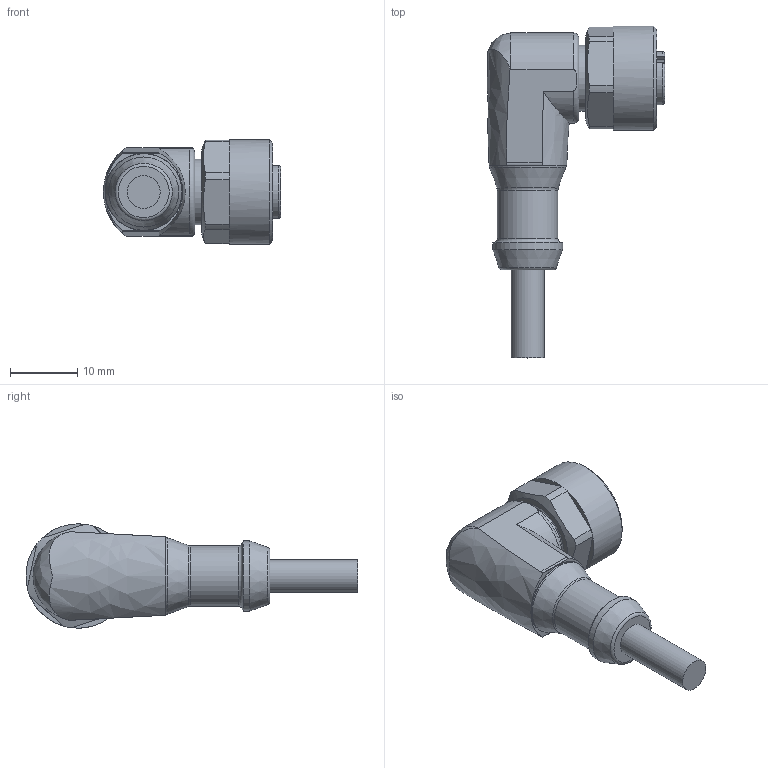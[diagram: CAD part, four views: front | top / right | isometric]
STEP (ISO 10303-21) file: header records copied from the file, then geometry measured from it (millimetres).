
FILE_DESCRIPTION( ( 'STEP AP203' ), ' ' );
FILE_NAME( 'p:/temp/worker_75/2608_2260/app_66_02015090811383518946027192d056f_000000_00_00_000000/format_2/EVC004.stp', '2015-09-08T09:38:35', ( '' ), ( '' ), ' ', 'PARTsolutions', ' ' );
FILE_SCHEMA( ( 'CONFIG_CONTROL_DESIGN' ) );
Length unit declared in the file: millimetre
Products named in the file (1): _EVC004
Bounding box: 26.34 x 49.31 x 15.5 mm (x, y, z)
Volume: 5659.6 mm3; surface area: 2920.7 mm2
Topology: 1 solids, 1 shells, 69 faces, 164 edges, 103 vertices
Faces by surface type: plane 33, cylinder 19, cone 9, torus 6, bspline 2
Full cylindrical faces by diameter (mm): 4.9 x1, 9 x1, 9.8 x1, 10.4 x1, 10.917 x1, 15.498 x1
Entity records: 2070 total; most frequent: CARTESIAN_POINT 544, DIRECTION 310, ORIENTED_EDGE 282, EDGE_CURVE 141, AXIS2_PLACEMENT_3D 129, VERTEX_POINT 99, EDGE_LOOP 94, FACE_OUTER_BOUND 80
